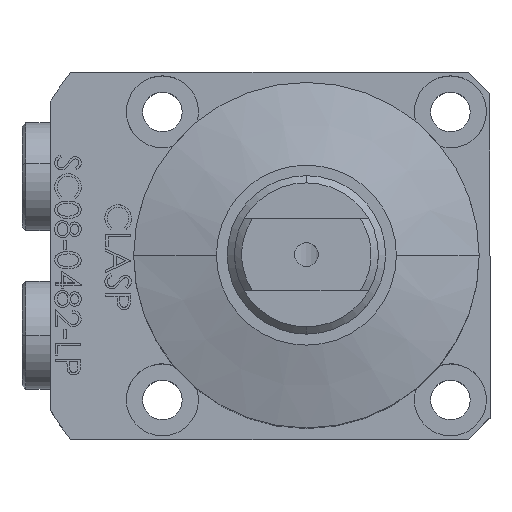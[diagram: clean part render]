
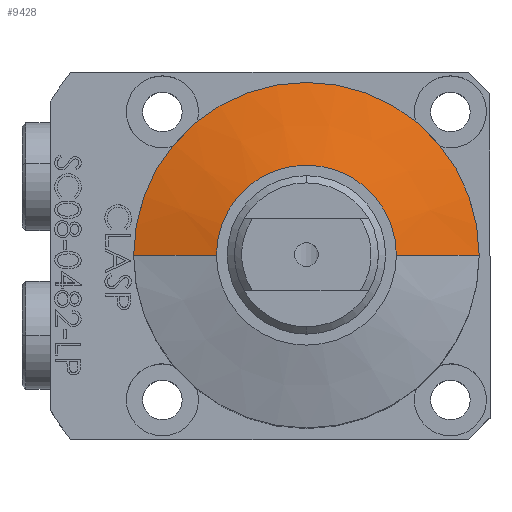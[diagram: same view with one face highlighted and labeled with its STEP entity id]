
A CAD part, top view. The second image highlights one B-rep face of the part: STEP entity #9428.
In plain terms, the highlighted conical face has half-angle 75 degrees and reference radius 60 mm.
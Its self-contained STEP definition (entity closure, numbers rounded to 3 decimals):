
#301 = DIRECTION ( 'NONE',  ( -1., 0., 0. ) ) ;
#1102 = VERTEX_POINT ( 'NONE', #12461 ) ;
#1413 = DIRECTION ( 'NONE',  ( 0., 0., 1. ) ) ;
#1707 = EDGE_CURVE ( 'NONE', #2447, #2634, #5549, .T. ) ;
#1709 = EDGE_LOOP ( 'NONE', ( #6871, #12390, #8837, #13244 ) ) ;
#1891 = EDGE_CURVE ( 'NONE', #2634, #1102, #4373, .T. ) ;
#1926 = EDGE_CURVE ( 'NONE', #10619, #1102, #7343, .T. ) ;
#2447 = VERTEX_POINT ( 'NONE', #2904 ) ;
#2545 = DIRECTION ( 'NONE',  ( -0.966, 0., -0.259 ) ) ;
#2634 = VERTEX_POINT ( 'NONE', #15467 ) ;
#2863 = CARTESIAN_POINT ( 'NONE',  ( 0., 0., 67.272 ) ) ;
#2904 = CARTESIAN_POINT ( 'NONE',  ( 12.5, 0., 80. ) ) ;
#3147 = DIRECTION ( 'NONE',  ( 0., 0., 1. ) ) ;
#4373 = LINE ( 'NONE', #11498, #8144 ) ;
#5024 = CONICAL_SURFACE ( 'NONE', #10850, 60., 1.309 ) ;
#5529 = CARTESIAN_POINT ( 'NONE',  ( 24., 0., 76.919 ) ) ;
#5549 = CIRCLE ( 'NONE', #6701, 12.5 ) ;
#5990 = LINE ( 'NONE', #16110, #12918 ) ;
#6701 = AXIS2_PLACEMENT_3D ( 'NONE', #10801, #3147, #12120 ) ;
#6871 = ORIENTED_EDGE ( 'NONE', *, *, #1707, .F. ) ;
#7343 = CIRCLE ( 'NONE', #15516, 24. ) ;
#8144 = VECTOR ( 'NONE', #2545, 1000. ) ;
#8223 = DIRECTION ( 'NONE',  ( 0.966, 0., -0.259 ) ) ;
#8837 = ORIENTED_EDGE ( 'NONE', *, *, #1926, .T. ) ;
#9055 = CARTESIAN_POINT ( 'NONE',  ( 0., 0., 76.919 ) ) ;
#9428 = ADVANCED_FACE ( 'NONE', ( #12287 ), #5024, .T. ) ;
#10357 = DIRECTION ( 'NONE',  ( -1., 0., 0. ) ) ;
#10619 = VERTEX_POINT ( 'NONE', #5529 ) ;
#10801 = CARTESIAN_POINT ( 'NONE',  ( 0., 0., 80. ) ) ;
#10850 = AXIS2_PLACEMENT_3D ( 'NONE', #2863, #13153, #301 ) ;
#11498 = CARTESIAN_POINT ( 'NONE',  ( -60., 0., 67.272 ) ) ;
#12120 = DIRECTION ( 'NONE',  ( 1., 0., 0. ) ) ;
#12287 = FACE_OUTER_BOUND ( 'NONE', #1709, .T. ) ;
#12390 = ORIENTED_EDGE ( 'NONE', *, *, #15700, .T. ) ;
#12461 = CARTESIAN_POINT ( 'NONE',  ( -24., 0., 76.919 ) ) ;
#12918 = VECTOR ( 'NONE', #8223, 1000. ) ;
#13153 = DIRECTION ( 'NONE',  ( 0., 0., -1. ) ) ;
#13244 = ORIENTED_EDGE ( 'NONE', *, *, #1891, .F. ) ;
#15467 = CARTESIAN_POINT ( 'NONE',  ( -12.5, 0., 80. ) ) ;
#15516 = AXIS2_PLACEMENT_3D ( 'NONE', #9055, #1413, #10357 ) ;
#15700 = EDGE_CURVE ( 'NONE', #2447, #10619, #5990, .T. ) ;
#16110 = CARTESIAN_POINT ( 'NONE',  ( 60., 0., 67.272 ) ) ;
